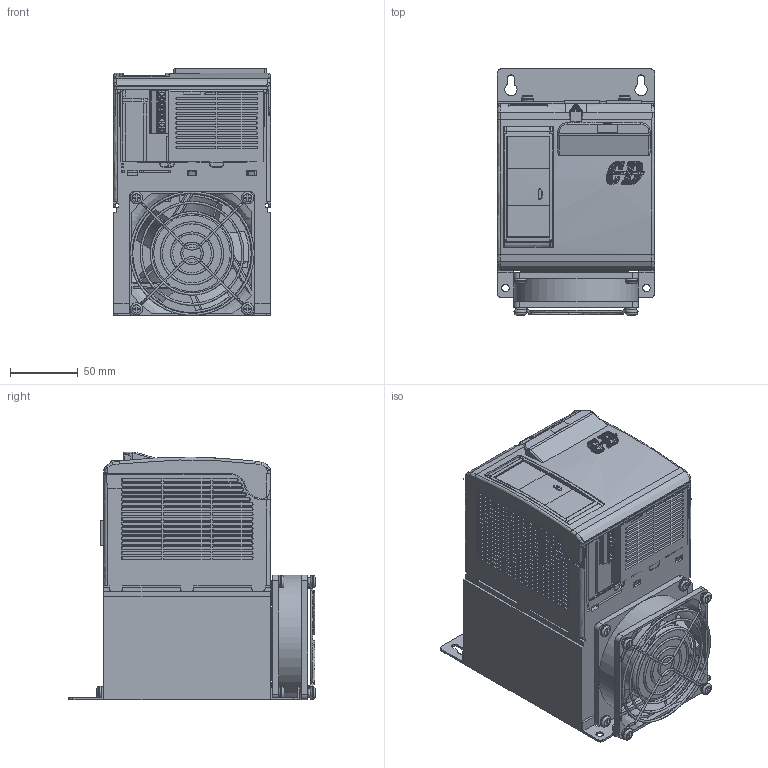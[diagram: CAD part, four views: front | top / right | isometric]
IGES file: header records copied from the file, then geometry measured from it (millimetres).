
Global section: file name: SR25 logo; native system: AutoCAD 2015 - Italiano (Italian); preprocessor: Autodesk Translation Framework DWG producer (atf_dwg_producer); organization: unknown; date: 20191105.142949; units: millimetre
Bounding box: 116.32 x 181.7 x 182.62 mm (x, y, z)
Volume: 2584545.1 mm3; surface area: 213505.4 mm2
Topology: 11 solids, 19 shells, 4623 faces, 12380 edges, 7978 vertices
Faces by surface type: bspline 4623
